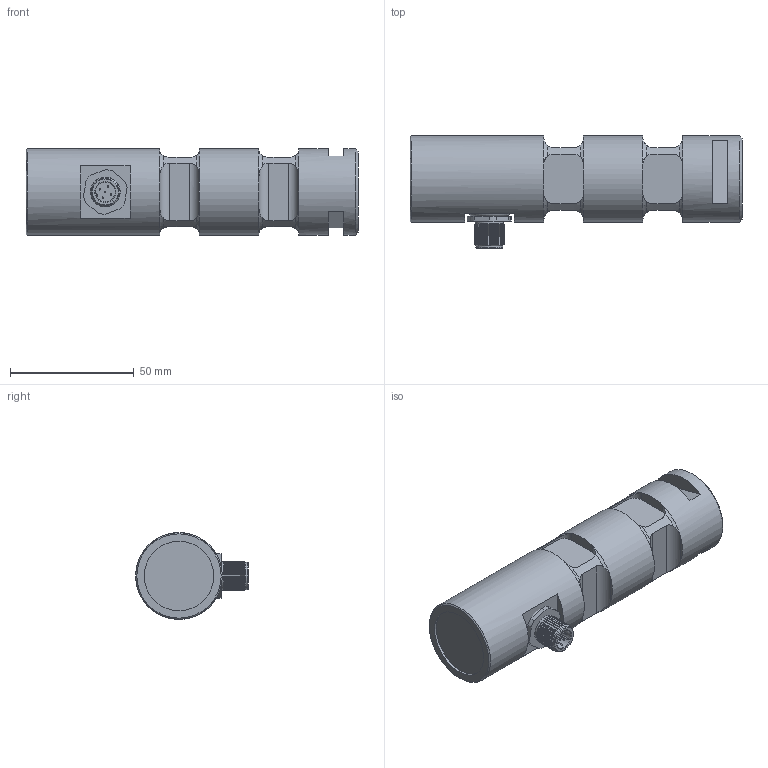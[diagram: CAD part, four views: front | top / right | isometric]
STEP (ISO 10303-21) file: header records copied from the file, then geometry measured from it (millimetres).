
FILE_DESCRIPTION(('HOOPS Exchange Step'),'2;1');
FILE_NAME('C:\Users\mathias\AppData\Local\Temp\Alibre Design\export-65A21FE0-071D-4CD4-8BDA-C2A6E633FCFA.stp','2019-07-31T09:06:05+02:00',('mathias'),('Alibre'),'HOOPS Exchange 2019.2','Alibre','Unknown authorisation');
FILE_SCHEMA( ('AP203_CONFIGURATION_CONTROLLED_3D_DESIGN_OF_MECHANICAL_PARTS_AND_ASSEMBLIES_MIM_LF') );
Length unit declared in the file: centimetre
Products named in the file (3): mb1434_001(a); M12-5P-Stecker-mit-Farbcode; mb1434_000(a)
Assembly tree (2 placements, depth 2):
  mb1434_000(a)
    mb1434_001(a)
    M12-5P-Stecker-mit-Farbcode
Bounding box: 134 x 45.5 x 35 mm (x, y, z)
Volume: 114769.5 mm3; surface area: 20973.1 mm2
Topology: 1 solids, 9 shells, 270 faces, 694 edges, 437 vertices
Faces by surface type: cylinder 90, plane 82, cone 80, torus 18
Full cylindrical faces by diameter (mm): 0.5 x10, 8 x2, 10 x1, 11 x1, 11.5 x1, 12 x21, 13 x2, 14.5 x1, 28 x1, 35 x3
Entity records: 9463 total; most frequent: CARTESIAN_POINT 2712, DIRECTION 1481, ORIENTED_EDGE 1379, EDGE_CURVE 694, AXIS2_PLACEMENT_3D 621, VERTEX_POINT 437, CIRCLE 346, EDGE_LOOP 290
